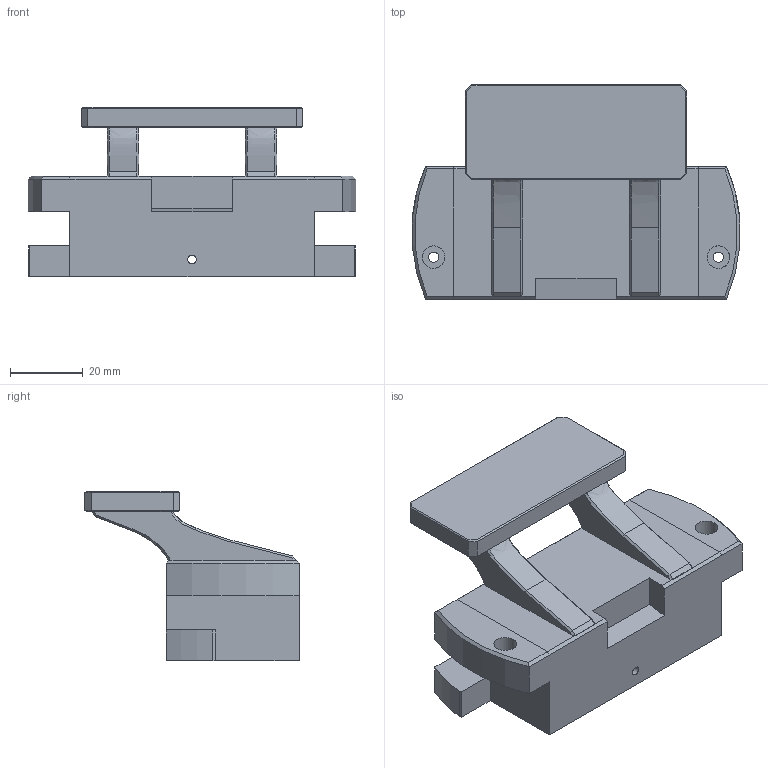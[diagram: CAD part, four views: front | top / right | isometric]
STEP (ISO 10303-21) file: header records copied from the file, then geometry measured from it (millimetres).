
FILE_DESCRIPTION(/* description */ (''),/* implementation_level */ '2;1');
FILE_NAME(/* name */ 'Trigger.stp',/* time_stamp */ '2026-08-25T19:32:09-06:00',/* author */ (''),/* organization */ (''),/* preprocessor_version */ 'ST-DEVELOPER v18.102',/* originating_system */ 'SIEMENS PLM Software NX 2027',/* authorisation */ '');
FILE_SCHEMA (('AUTOMOTIVE_DESIGN { 1 0 10303 214 3 1 1 1 }'));
Length unit declared in the file: inch
Products named in the file (1): Trigger
Bounding box: 89.77 x 58.78 x 46.55 mm (x, y, z)
Volume: 81226.1 mm3; surface area: 20621.5 mm2
Topology: 1 solids, 1 shells, 119 faces, 292 edges, 178 vertices
Faces by surface type: plane 94, cylinder 11, bspline 8, extrusion 4, cone 2
Full cylindrical faces by diameter (mm): 2.381 x2, 2.784 x2, 6.188 x2, 21.523 x1
Entity records: 4081 total; most frequent: CARTESIAN_POINT 1412, ORIENTED_EDGE 566, DIRECTION 469, EDGE_CURVE 283, VECTOR 215, LINE 211, VERTEX_POINT 176, EDGE_LOOP 139
